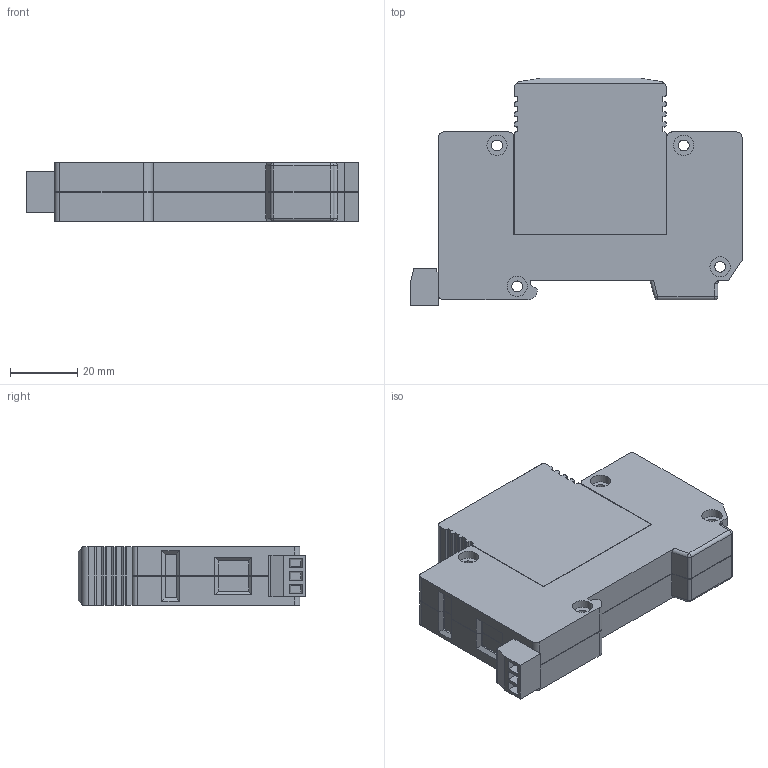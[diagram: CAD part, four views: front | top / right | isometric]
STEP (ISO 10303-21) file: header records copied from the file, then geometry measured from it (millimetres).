
FILE_DESCRIPTION(/* description */ (''),/* implementation_level */ '2;1');
FILE_NAME(/* name */ 'K:\PROJEKTY ROZPRACOVANÉ\MODELY DO KATALOGU\HSA, HLSA 24520, 10007\3D - STEP\HLSA M S.stp',/* time_stamp */ '2020-03-17T07:36:52+01:00',/* author */ ('M Koliska'),/* organization */ (''),/* preprocessor_version */ 'ST-DEVELOPER v18',/* originating_system */ 'Autodesk Inventor 2020',/* authorisation */ '');
FILE_SCHEMA (('AUTOMOTIVE_DESIGN { 1 0 10303 214 3 1 1 }'));
Length unit declared in the file: millimetre
Products named in the file (7): HLSA M S; HLSA M S_1; DIN 7985 (H) - M5x6-H; KONEKTOR DEGSON 15EDGK 3.81; KONEKTOR SAMEC; ISO 2009 - M1,6 x 2,5; KONEKTOR DEGSON 15EDGRC 3.81 (OBRÁCENÉ VÝV
ODY)
Assembly tree (9 placements, depth 3):
  HLSA M S
    HLSA M S_1
    DIN 7985 (H) - M5x6-H  x2
    KONEKTOR DEGSON 15EDGK 3.81
      KONEKTOR SAMEC
      ISO 2009 - M1,6 x 2,5  x3
    KONEKTOR DEGSON 15EDGRC 3.81 (OBRÁCENÉ VÝV
ODY)
Bounding box: 98.5 x 67.6 x 17.5 mm (x, y, z)
Volume: 84619.7 mm3; surface area: 22800.5 mm2
Topology: 8 solids, 8 shells, 611 faces, 1630 edges, 1079 vertices
Faces by surface type: plane 442, cylinder 107, cone 46, torus 10, sphere 6
Full cylindrical faces by diameter (mm): 0.968 x3, 1 x6, 1.171 x3, 1.6 x3, 1.9 x3, 2 x3, 2.5 x3, 3.2 x4, 4.6 x2, 5 x2, 6 x8
Entity records: 17264 total; most frequent: CARTESIAN_POINT 3049, ORIENTED_EDGE 2914, DIRECTION 2852, EDGE_CURVE 1457, LINE 1136, VECTOR 1136, VERTEX_POINT 963, AXIS2_PLACEMENT_3D 858
